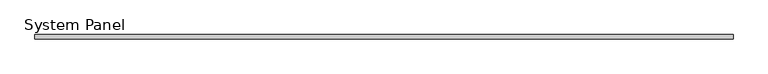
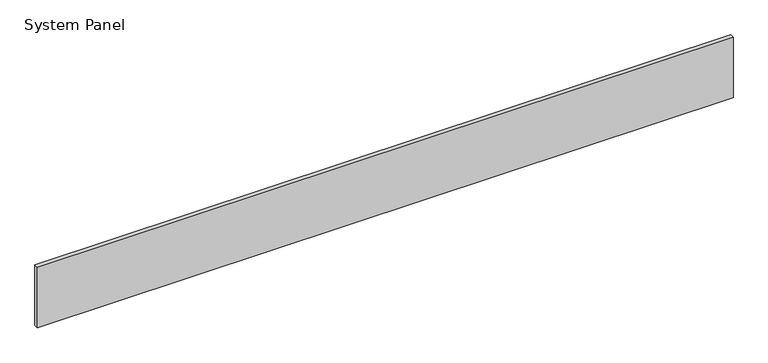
"""IFC4 building model written with IfcOpenShell, lengths in millimetres: plate geometry, System Panel : MetecnoPanel_75mm_Plain_Surfmist."""

import ifcopenshell
import ifcopenshell.guid

model = None  # the IFC model being written
_history = None  # IfcOwnerHistory: only IFC2X3 demands one
_inside = {}  # id of a spatial element -> (the spatial element, [elements in it])
_under = {}  # id of a project, library or spatial element -> (it, [spatial elements below it])
_declared = {}  # id of a project -> (the project, [libraries it declares])
_typed = {}  # id of a type object -> (the type object, [elements of that type])
_made_of = {}  # id of a material, layer set ... -> (it, [elements and type objects made of it])


def new_model(schema):
    """Start an empty IFC model of exactly this schema.

    Asked for "IFC4X3", IfcOpenShell would pick the latest addendum, in which some entities
    have other attributes; the version numbers below select the first issue.
    IFC2X3 requires an IfcOwnerHistory on every rooted entity: one is made here for all.
    """
    global model, _history
    if schema == "IFC4X3":
        model = ifcopenshell.file(schema_version=(4, 3, 0, 0))
    else:
        model = ifcopenshell.file(schema=schema)
    _inside.clear()
    _under.clear()
    _declared.clear()
    _typed.clear()
    _made_of.clear()
    _history = None
    if model.schema == "IFC2X3":
        org = make("IfcOrganization", Name="unknown")
        user = make(
            "IfcPersonAndOrganization",
            ThePerson=make("IfcPerson", FamilyName="unknown"),
            TheOrganization=org,
        )
        app = make(
            "IfcApplication",
            ApplicationDeveloper=org,
            Version="unknown",
            ApplicationFullName="unknown",
            ApplicationIdentifier="unknown",
        )
        _history = make(
            "IfcOwnerHistory",
            OwningUser=user,
            OwningApplication=app,
            ChangeAction="ADDED",
            CreationDate=0,
        )
    return model


def make(cls, **values):
    """One entity of the class cls with the attributes given. An attribute that is None is left unset."""
    return model.create_entity(
        cls, **{name: value for name, value in values.items() if value is not None}
    )


def rooted(cls, **values):
    """An entity with a GlobalId (a new one), such as an element, a storey or a relation."""
    return make(cls, GlobalId=ifcopenshell.guid.new(), OwnerHistory=_history, **values)


def si_unit(unit_type, name, prefix=None):
    """IfcSIUnit, for example si_unit("LENGTHUNIT", "METRE", prefix="MILLI")."""
    return make("IfcSIUnit", UnitType=unit_type, Prefix=prefix, Name=name)


def assignment(units):
    """IfcUnitAssignment: the units of a project."""
    return None if units is None else make("IfcUnitAssignment", Units=units)


def point(xyz):
    """IfcCartesianPoint."""
    return None if xyz is None else make("IfcCartesianPoint", Coordinates=xyz)


def direction(xyz):
    """IfcDirection."""
    return None if xyz is None else make("IfcDirection", DirectionRatios=xyz)


def frame(location, z_axis=None, x_axis=None):
    """IfcAxis2Placement3D, a coordinate frame: its origin and axes. An axis left out is left unset."""
    return make(
        "IfcAxis2Placement3D",
        Location=point(location),
        Axis=direction(z_axis),
        RefDirection=direction(x_axis),
    )


def origin():
    """The frame at (0, 0, 0) with its axes left unset."""
    return frame((0.0, 0.0, 0.0))


def origin_with_axes():
    """The frame at (0, 0, 0) with the z axis (0, 0, 1) and the x axis (1, 0, 0) written out."""
    return frame((0.0, 0.0, 0.0), z_axis=(0.0, 0.0, 1.0), x_axis=(1.0, 0.0, 0.0))


def place(relative_to, where):
    """IfcLocalPlacement: puts the frame where relative to a parent placement (None: the world)."""
    return make(
        "IfcLocalPlacement", PlacementRelTo=relative_to, RelativePlacement=where
    )


def context(
    kind, dimensions, precision=None, world=None, true_north=None, identifier=None
):
    """IfcGeometricRepresentationContext, for example the 3D "Model" context."""
    return make(
        "IfcGeometricRepresentationContext",
        ContextIdentifier=identifier,
        ContextType=kind,
        CoordinateSpaceDimension=dimensions,
        Precision=precision,
        WorldCoordinateSystem=world,
        TrueNorth=true_north,
    )


def project(units=None, contexts=None):
    """IfcProject with its units and contexts."""
    return rooted(
        "IfcProject",
        Name="project",
        RepresentationContexts=contexts,
        UnitsInContext=assignment(units),
    )


def spatial(cls, under=None, at=None, **own):
    """A site, building, storey or space (cls), placed at a placement, below another one or the project."""
    s = rooted(cls, ObjectPlacement=at, **own)
    if under is not None:
        _under.setdefault(under.id(), (under, []))[1].append(s)
    return s


def polyline(points):
    """IfcPolyline through the points."""
    return make("IfcPolyline", Points=[point(p) for p in points])


def outline(outer, holes=None, kind="AREA"):
    """IfcArbitraryClosedProfileDef: a profile drawn as a closed curve; with holes, ...WithVoids."""
    if holes is None:
        return make("IfcArbitraryClosedProfileDef", ProfileType=kind, OuterCurve=outer)
    return make(
        "IfcArbitraryProfileDefWithVoids",
        ProfileType=kind,
        OuterCurve=outer,
        InnerCurves=holes,
    )


def extrude(swept, where, along, depth):
    """IfcExtrudedAreaSolid: the profile swept, set in the frame where, extruded along a direction by depth."""
    return make(
        "IfcExtrudedAreaSolid",
        SweptArea=swept,
        Position=where,
        ExtrudedDirection=direction(along),
        Depth=depth,
    )


def shape(context_of_items, identifier, shape_type, items):
    """IfcShapeRepresentation: the items that make up one representation, for example the "Body"."""
    return make(
        "IfcShapeRepresentation",
        ContextOfItems=context_of_items,
        RepresentationIdentifier=identifier,
        RepresentationType=shape_type,
        Items=items,
    )


def source(mapping_origin, context_of_items, identifier, shape_type, items):
    """IfcRepresentationMap: a shape defined once, which mapped items show again and again."""
    return make(
        "IfcRepresentationMap",
        MappingOrigin=mapping_origin,
        MappedRepresentation=shape(context_of_items, identifier, shape_type, items),
    )


def transform(
    local_origin,
    x_axis=None,
    y_axis=None,
    z_axis=None,
    scale=None,
    scale2=None,
    scale3=None,
    uniform=True,
):
    """IfcCartesianTransformationOperator3D, or its non-uniform kind. x_axis, y_axis, z_axis: its Axis1, 2, 3."""
    if uniform:
        return make(
            "IfcCartesianTransformationOperator3D",
            Axis1=direction(x_axis),
            Axis2=direction(y_axis),
            LocalOrigin=point(local_origin),
            Scale=scale,
            Axis3=direction(z_axis),
        )
    return make(
        "IfcCartesianTransformationOperator3DnonUniform",
        Axis1=direction(x_axis),
        Axis2=direction(y_axis),
        LocalOrigin=point(local_origin),
        Scale=scale,
        Axis3=direction(z_axis),
        Scale2=scale2,
        Scale3=scale3,
    )


def mapped(mapping_source, mapping_target):
    """IfcMappedItem: shows the shape of a source again, moved by a transform."""
    return make(
        "IfcMappedItem", MappingSource=mapping_source, MappingTarget=mapping_target
    )


def made_of(thing, what):
    """Note that an element or type object is made of a material, layer set ...; save() writes the relation."""
    if what is not None:
        _made_of.setdefault(what.id(), (what, []))[1].append(thing)
    return thing


def element(
    cls,
    number,
    at=None,
    inside=None,
    cuts=None,
    type_object=None,
    material=None,
    context=None,
    identifier="Body",
    shape_type=None,
    held_by="IfcProductDefinitionShape",
    body=None,
    shapes=None,
    **own,
):
    """One element of the class cls, such as IfcWall. Its Tag is "e" and its number.

    at: its placement. inside: the storey or other place that contains it. cuts: it is an
    opening in that element (IfcRelVoidsElement). A single representation is given by context,
    identifier, shape_type and body (its items); several are given by shapes. held_by: the class
    of the entity that holds the representations. save() writes the other relations.
    """
    e = rooted(cls, Tag="e%d" % number, ObjectPlacement=at, **own)
    if body is not None:
        shapes = [shape(context, identifier, shape_type, body)]
    if shapes is not None:
        e.Representation = make(held_by, Representations=shapes)
    if inside is not None:
        _inside.setdefault(inside.id(), (inside, []))[1].append(e)
    if cuts is not None:
        rooted(
            "IfcRelVoidsElement", RelatingBuildingElement=cuts, RelatedOpeningElement=e
        )
    if type_object is not None:
        _typed.setdefault(type_object.id(), (type_object, []))[1].append(e)
    return made_of(e, material)


def aggregate(whole, parts):
    """IfcRelAggregates: a whole, such as a stair, and the parts it consists of."""
    return rooted("IfcRelAggregates", RelatingObject=whole, RelatedObjects=parts)


def save(model, path):
    """Write the relations noted so far, then the file.

    IfcRelAggregates (storeys below a building ...), IfcRelContainedInSpatialStructure (elements
    in a storey), IfcRelDefinesByType, IfcRelAssociatesMaterial and IfcRelDeclares: one each for
    every whole, place, type object, material and project.
    """
    for whole, parts in _under.values():
        aggregate(whole, parts)
    for where, things in _inside.values():
        rooted(
            "IfcRelContainedInSpatialStructure",
            RelatedElements=things,
            RelatingStructure=where,
        )
    for kind, things in _typed.values():
        rooted("IfcRelDefinesByType", RelatedObjects=things, RelatingType=kind)
    for what, things in _made_of.values():
        rooted("IfcRelAssociatesMaterial", RelatedObjects=things, RelatingMaterial=what)
    for by, libraries in _declared.values():
        rooted("IfcRelDeclares", RelatingContext=by, RelatedDefinitions=libraries)
    model.write(path)


def system_panel_6eba0669(model_context):
    return source(origin(), model_context, "Body", "SweptSolid", [
        extrude(outline(polyline([(6000.0, 0.0), (-6000.0, 0.0), (-6000.0, 75.0), (6000.0, 75.0), (6000.0, 0.0)])), origin_with_axes(), (0.0, 0.0, 1.0), 1100.0),
    ])


if __name__ == "__main__":
    model = new_model("IFC4")
    model_context = context("Model", 3, world=origin())
    ifc_project = project(units=[si_unit("LENGTHUNIT", "METRE", prefix="MILLI")], contexts=[model_context])
    site = spatial("IfcSite", under=ifc_project)
    building = spatial("IfcBuilding", under=site)
    placement = place(None, origin())
    system_panel_shape = system_panel_6eba0669(model_context)
    element("IfcPlate", 1, ObjectType="System Panel : MetecnoPanel_75mm_Plain_Surfmist", at=placement, inside=building, context=model_context, shape_type="MappedRepresentation", body=[
        mapped(system_panel_shape, transform((0.0, 0.0, 0.0), x_axis=(1.0, 0.0, 0.0), y_axis=(0.0, 1.0, 0.0), z_axis=(0.0, 0.0, 1.0))),
    ])
    save(model, "model.ifc")
